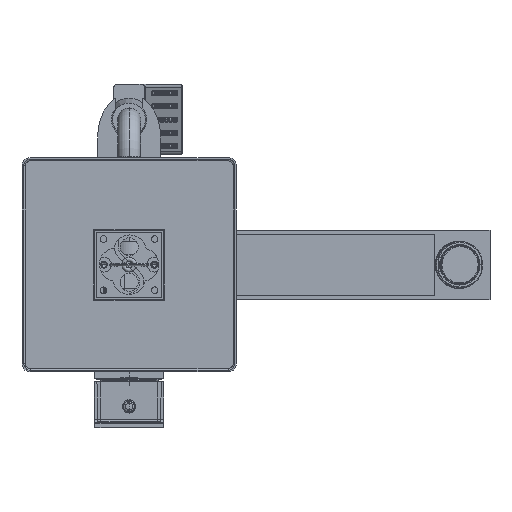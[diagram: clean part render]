
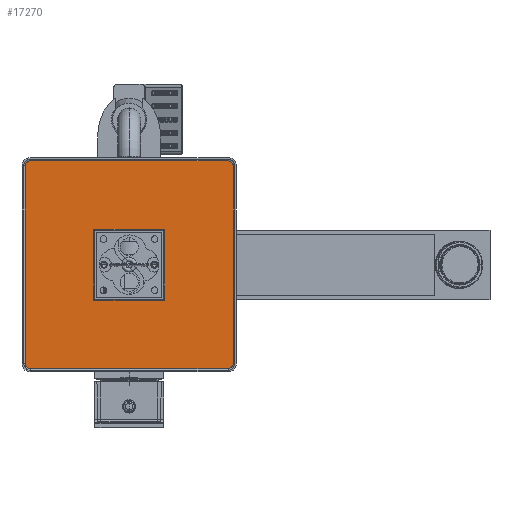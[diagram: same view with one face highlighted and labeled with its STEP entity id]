
A CAD part, front view. The second image highlights one B-rep face of the part: STEP entity #17270.
In plain terms, the highlighted planar face has unit normal (0, -1, 0) as drawn and (0, 1, 0) by its records, which use the part's own axes.
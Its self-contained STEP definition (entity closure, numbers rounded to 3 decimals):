
#16223=DIRECTION('',(0.,0.,-1.));
#16224=VECTOR('',#16223,120.);
#16225=CARTESIAN_POINT('',(-63.,-7.,60.));
#16226=LINE('',#16225,#16224);
#16250=DIRECTION('',(1.,0.,0.));
#16251=VECTOR('',#16250,120.);
#16252=CARTESIAN_POINT('',(-60.,-7.,-63.));
#16253=LINE('',#16252,#16251);
#16518=DIRECTION('',(1.,0.,0.));
#16519=VECTOR('',#16518,43.);
#16520=CARTESIAN_POINT('',(-21.5,-7.,21.5));
#16521=LINE('',#16520,#16519);
#16526=DIRECTION('',(0.,0.,-1.));
#16527=VECTOR('',#16526,43.);
#16528=CARTESIAN_POINT('',(21.5,-7.,21.5));
#16529=LINE('',#16528,#16527);
#16534=DIRECTION('',(-1.,0.,0.));
#16535=VECTOR('',#16534,43.);
#16536=CARTESIAN_POINT('',(21.5,-7.,-21.5));
#16537=LINE('',#16536,#16535);
#16542=DIRECTION('',(0.,0.,1.));
#16543=VECTOR('',#16542,43.);
#16544=CARTESIAN_POINT('',(-21.5,-7.,-21.5));
#16545=LINE('',#16544,#16543);
#16550=CARTESIAN_POINT('',(60.,-7.,60.));
#16551=DIRECTION('',(0.,1.,0.));
#16552=DIRECTION('',(0.,0.,1.));
#16553=AXIS2_PLACEMENT_3D('',#16550,#16551,#16552);
#16555=CARTESIAN_POINT('',(-60.,-7.,60.));
#16556=DIRECTION('',(0.,1.,0.));
#16557=DIRECTION('',(-1.,0.,0.));
#16558=AXIS2_PLACEMENT_3D('',#16555,#16556,#16557);
#16560=CARTESIAN_POINT('',(-60.,-7.,-60.));
#16561=DIRECTION('',(0.,1.,0.));
#16562=DIRECTION('',(0.,0.,-1.));
#16563=AXIS2_PLACEMENT_3D('',#16560,#16561,#16562);
#16565=CARTESIAN_POINT('',(60.,-7.,-60.));
#16566=DIRECTION('',(0.,1.,0.));
#16567=DIRECTION('',(1.,0.,0.));
#16568=AXIS2_PLACEMENT_3D('',#16565,#16566,#16567);
#16589=DIRECTION('',(0.,0.,1.));
#16590=VECTOR('',#16589,120.);
#16591=CARTESIAN_POINT('',(63.,-7.,-60.));
#16592=LINE('',#16591,#16590);
#16612=DIRECTION('',(-1.,0.,0.));
#16613=VECTOR('',#16612,120.);
#16614=CARTESIAN_POINT('',(60.,-7.,63.));
#16615=LINE('',#16614,#16613);
#16616=CARTESIAN_POINT('',(-63.,-7.,60.));
#16618=VERTEX_POINT('',#16616);
#16622=CARTESIAN_POINT('',(-60.,-7.,63.));
#16623=VERTEX_POINT('',#16622);
#16633=CARTESIAN_POINT('',(63.,-7.,60.));
#16635=VERTEX_POINT('',#16633);
#16636=CARTESIAN_POINT('',(60.,-7.,63.));
#16637=VERTEX_POINT('',#16636);
#16647=CARTESIAN_POINT('',(-63.,-7.,-60.));
#16649=VERTEX_POINT('',#16647);
#16659=CARTESIAN_POINT('',(21.5,-7.,21.5));
#16661=VERTEX_POINT('',#16659);
#16664=CARTESIAN_POINT('',(-21.5,-7.,21.5));
#16665=VERTEX_POINT('',#16664);
#16666=CARTESIAN_POINT('',(-60.,-7.,-63.));
#16668=VERTEX_POINT('',#16666);
#16670=CARTESIAN_POINT('',(60.,-7.,-63.));
#16671=VERTEX_POINT('',#16670);
#16686=CARTESIAN_POINT('',(63.,-7.,-60.));
#16687=VERTEX_POINT('',#16686);
#16690=CARTESIAN_POINT('',(-21.5,-7.,-21.5));
#16691=VERTEX_POINT('',#16690);
#16725=CARTESIAN_POINT('',(21.5,-7.,-21.5));
#16727=VERTEX_POINT('',#16725);
#17245=CARTESIAN_POINT('',(-60.,-7.,60.));
#17246=DIRECTION('',(0.,-1.,0.));
#17247=DIRECTION('',(0.,0.,-1.));
#17248=AXIS2_PLACEMENT_3D('',#17245,#17246,#17247);
#17249=PLANE('',#17248);
#17251=ORIENTED_EDGE('',*,*,#17250,.F.);
#17253=ORIENTED_EDGE('',*,*,#17252,.T.);
#17254=ORIENTED_EDGE('',*,*,#16735,.F.);
#17255=ORIENTED_EDGE('',*,*,#16751,.T.);
#17256=ORIENTED_EDGE('',*,*,#16766,.F.);
#17257=ORIENTED_EDGE('',*,*,#16784,.T.);
#17259=ORIENTED_EDGE('',*,*,#17258,.F.);
#17261=ORIENTED_EDGE('',*,*,#17260,.T.);
#17262=EDGE_LOOP('',(#17251,#17253,#17254,#17255,#17256,#17257,#17259,#17261));
#17263=FACE_OUTER_BOUND('',#17262,.F.);
#17264=ORIENTED_EDGE('',*,*,#17211,.T.);
#17265=ORIENTED_EDGE('',*,*,#17225,.T.);
#17266=ORIENTED_EDGE('',*,*,#17238,.T.);
#17267=ORIENTED_EDGE('',*,*,#17196,.T.);
#17268=EDGE_LOOP('',(#17264,#17265,#17266,#17267));
#17269=FACE_BOUND('',#17268,.F.);
#16554=CIRCLE('',#16553,3.);
#16559=CIRCLE('',#16558,3.);
#16564=CIRCLE('',#16563,3.);
#16569=CIRCLE('',#16568,3.);
#16735=EDGE_CURVE('',#16618,#16623,#16559,.T.);
#16751=EDGE_CURVE('',#16618,#16649,#16226,.T.);
#16766=EDGE_CURVE('',#16668,#16649,#16564,.T.);
#16784=EDGE_CURVE('',#16668,#16671,#16253,.T.);
#17196=EDGE_CURVE('',#16665,#16661,#16521,.T.);
#17211=EDGE_CURVE('',#16661,#16727,#16529,.T.);
#17225=EDGE_CURVE('',#16727,#16691,#16537,.T.);
#17238=EDGE_CURVE('',#16691,#16665,#16545,.T.);
#17250=EDGE_CURVE('',#16637,#16635,#16554,.T.);
#17252=EDGE_CURVE('',#16637,#16623,#16615,.T.);
#17258=EDGE_CURVE('',#16687,#16671,#16569,.T.);
#17260=EDGE_CURVE('',#16687,#16635,#16592,.T.);
#17270=ADVANCED_FACE('',(#17263,#17269),#17249,.F.);
